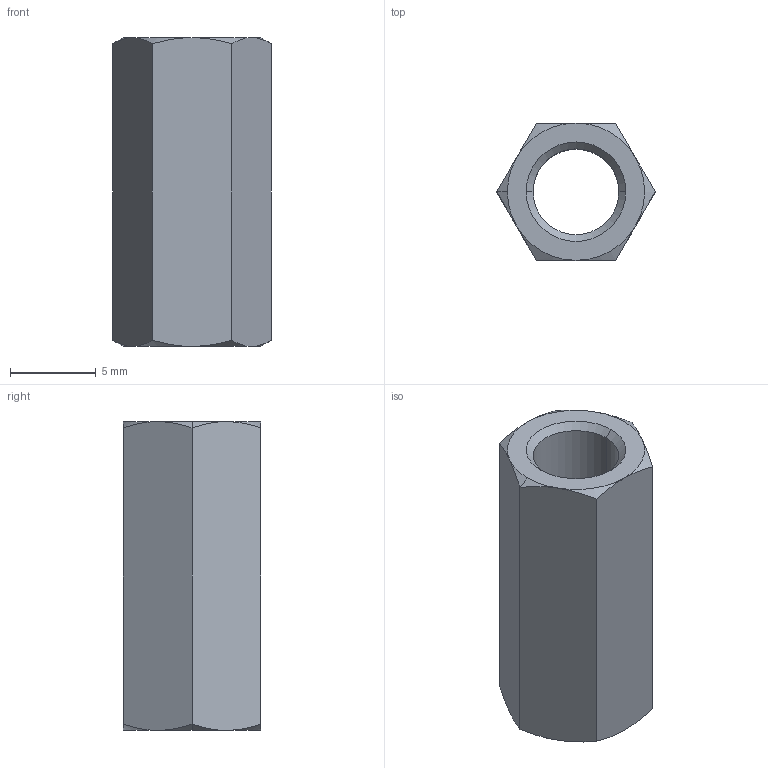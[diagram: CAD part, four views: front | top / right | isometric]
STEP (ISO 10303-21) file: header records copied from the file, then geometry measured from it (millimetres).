
FILE_DESCRIPTION (( 'STEP AP203' ), '1' );
FILE_NAME ('N0503.050-018-NP.step', '2025-02-27T14:44:17', ( '' ), ( '' ), 'SwSTEP 2.0', 'SolidWorks 2019', '' );
FILE_SCHEMA (( 'CONFIG_CONTROL_DESIGN' ));
Length unit declared in the file: millimetre
Products named in the file (1): N0503.050-018-NP
Bounding box: 9.24 x 8 x 18 mm (x, y, z)
Volume: 640.5 mm3; surface area: 841 mm2
Topology: 1 solids, 1 shells, 28 faces, 60 edges, 34 vertices
Faces by surface type: cone 18, plane 8, cylinder 2
Entity records: 875 total; most frequent: CARTESIAN_POINT 223, ORIENTED_EDGE 120, DIRECTION 116, EDGE_CURVE 60, AXIS2_PLACEMENT_3D 51, VERTEX_POINT 34, EDGE_LOOP 30, FACE_OUTER_BOUND 28
